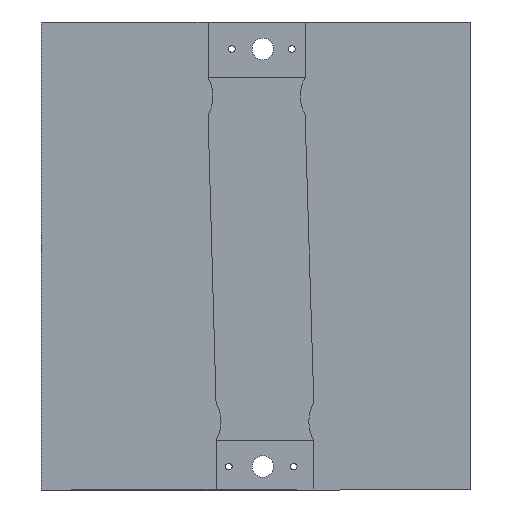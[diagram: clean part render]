
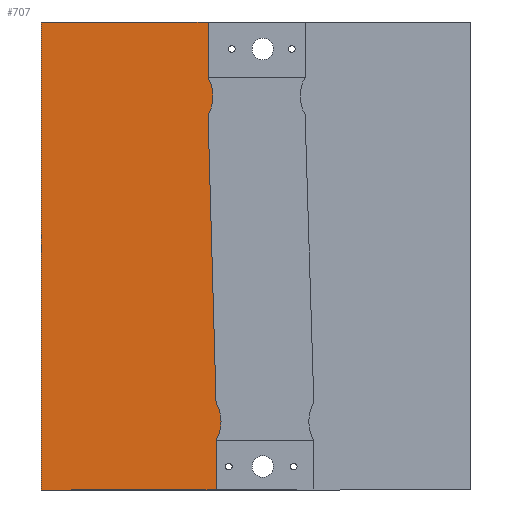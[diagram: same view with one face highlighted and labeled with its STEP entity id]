
A CAD part, front view. The second image highlights one B-rep face of the part: STEP entity #707.
In plain terms, the highlighted free-form (B-spline) face has degree [1, 1] with [2, 2] control points.
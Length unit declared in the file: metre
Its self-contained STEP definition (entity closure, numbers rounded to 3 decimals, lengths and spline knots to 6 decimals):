
#18=LINE('',#1041,#66);
#28=LINE('',#1104,#76);
#34=LINE('',#1133,#82);
#46=LINE('',#1197,#94);
#51=LINE('',#1223,#99);
#59=LINE('',#1287,#107);
#66=VECTOR('',#809,1.);
#76=VECTOR('',#835,1.);
#82=VECTOR('',#851,1.);
#94=VECTOR('',#873,1.);
#99=VECTOR('',#882,1.);
#107=VECTOR('',#902,1.);
#125=B_SPLINE_SURFACE_WITH_KNOTS('',1,1,((#1288,#1289),(#1290,#1291)),
 .PLANE_SURF.,.F.,.F.,.F.,(2,2),(2,2),(0.045455,0.956221),
(0.045455,0.954545),.PIECEWISE_BEZIER_KNOTS.);
#338=ORIENTED_EDGE('',*,*,#428,.F.);
#339=ORIENTED_EDGE('',*,*,#449,.F.);
#340=ORIENTED_EDGE('',*,*,#382,.F.);
#341=ORIENTED_EDGE('',*,*,#400,.F.);
#342=ORIENTED_EDGE('',*,*,#438,.T.);
#343=ORIENTED_EDGE('',*,*,#435,.F.);
#344=ORIENTED_EDGE('',*,*,#432,.T.);
#345=ORIENTED_EDGE('',*,*,#411,.F.);
#382=EDGE_CURVE('',#486,#487,#18,.T.);
#400=EDGE_CURVE('',#495,#486,#28,.T.);
#411=EDGE_CURVE('',#501,#502,#34,.T.);
#428=EDGE_CURVE('',#512,#501,#46,.T.);
#432=EDGE_CURVE('',#514,#502,#558,.T.);
#435=EDGE_CURVE('',#514,#516,#51,.T.);
#438=EDGE_CURVE('',#495,#516,#560,.T.);
#449=EDGE_CURVE('',#487,#512,#59,.T.);
#486=VERTEX_POINT('',#1040);
#487=VERTEX_POINT('',#1042);
#495=VERTEX_POINT('',#1103);
#501=VERTEX_POINT('',#1132);
#502=VERTEX_POINT('',#1134);
#512=VERTEX_POINT('',#1196);
#514=VERTEX_POINT('',#1215);
#516=VERTEX_POINT('',#1224);
#558=CIRCLE('',#757,0.025578);
#560=CIRCLE('',#759,0.025578);
#611=EDGE_LOOP('',(#338,#339,#340,#341,#342,#343,#344,#345));
#657=FACE_BOUND('',#611,.T.);
#707=ADVANCED_FACE('',(#657),#125,.T.);
#757=AXIS2_PLACEMENT_3D('',#1214,#877,#878);
#759=AXIS2_PLACEMENT_3D('',#1236,#885,#886);
#809=DIRECTION('',(-1.,0.,0.));
#835=DIRECTION('',(0.,0.,-1.));
#851=DIRECTION('',(0.,0.,-1.));
#873=DIRECTION('',(1.,0.,0.));
#877=DIRECTION('',(0.,-1.,0.));
#878=DIRECTION('',(0.875,0.,-0.483));
#882=DIRECTION('',(0.028,0.,-1.));
#885=DIRECTION('',(0.,-1.,0.));
#886=DIRECTION('',(0.874,0.,-0.486));
#902=DIRECTION('',(0.,0.,1.));
#1040=CARTESIAN_POINT('',(0.651078,-0.005,-0.016862));
#1041=CARTESIAN_POINT('',(0.594096,-0.005,-0.016862));
#1042=CARTESIAN_POINT('',(0.537115,-0.005,-0.016862));
#1103=CARTESIAN_POINT('',(0.651078,-0.005,0.015235));
#1104=CARTESIAN_POINT('',(0.651078,-0.005,-0.000813));
#1132=CARTESIAN_POINT('',(0.645867,-0.005,0.288138));
#1133=CARTESIAN_POINT('',(0.645867,-0.005,0.270152));
#1134=CARTESIAN_POINT('',(0.645867,-0.005,0.252167));
#1196=CARTESIAN_POINT('',(0.537115,-0.005,0.288138));
#1197=CARTESIAN_POINT('',(0.591491,-0.005,0.288138));
#1214=CARTESIAN_POINT('',(0.623475,-0.005,0.239806));
#1215=CARTESIAN_POINT('',(0.645867,-0.005,0.227445));
#1223=CARTESIAN_POINT('',(0.648472,-0.005,0.133779));
#1224=CARTESIAN_POINT('',(0.651078,-0.005,0.040113));
#1236=CARTESIAN_POINT('',(0.628728,-0.005,0.027674));
#1287=CARTESIAN_POINT('',(0.537115,-0.005,0.135638));
#1288=CARTESIAN_POINT('',(0.537115,-0.005,-0.016862));
#1289=CARTESIAN_POINT('',(0.537115,-0.005,0.288138));
#1290=CARTESIAN_POINT('',(0.655226,-0.005,-0.016862));
#1291=CARTESIAN_POINT('',(0.655226,-0.005,0.288138));
